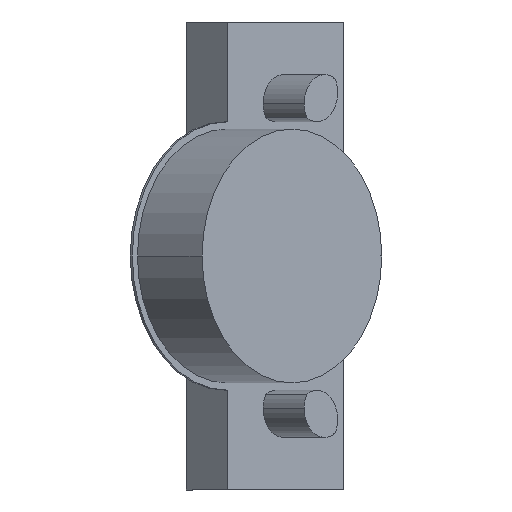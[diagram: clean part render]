
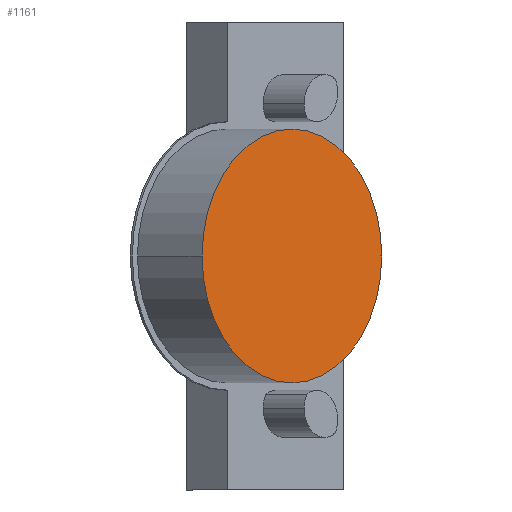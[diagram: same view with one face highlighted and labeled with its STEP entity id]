
A CAD part, front view. The second image highlights one B-rep face of the part: STEP entity #1161.
In plain terms, the highlighted planar face has unit normal (0.707, -0.707, 0).
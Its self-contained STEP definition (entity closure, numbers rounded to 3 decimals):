
#69 = ORIENTED_EDGE ( 'NONE', *, *, #254, .T. ) ;
#82 = FACE_OUTER_BOUND ( 'NONE', #1238, .T. ) ;
#97 = EDGE_CURVE ( 'NONE', #1040, #630, #346, .T. ) ;
#120 = CARTESIAN_POINT ( 'NONE',  ( 18.46, -62.15, 0. ) ) ;
#155 = CARTESIAN_POINT ( 'NONE',  ( 18.46, -62.15, 0. ) ) ;
#176 = DIRECTION ( 'NONE',  ( 0.707, -0.707, 0. ) ) ;
#254 = EDGE_CURVE ( 'NONE', #630, #1040, #1059, .T. ) ;
#346 = CIRCLE ( 'NONE', #816, 17.5 ) ;
#558 = CARTESIAN_POINT ( 'NONE',  ( 6.085, -74.524, 0. ) ) ;
#585 = PLANE ( 'NONE',  #695 ) ;
#630 = VERTEX_POINT ( 'NONE', #558 ) ;
#695 = AXIS2_PLACEMENT_3D ( 'NONE', #971, #1487, #722 ) ;
#722 = DIRECTION ( 'NONE',  ( 0.707, 0.707, 0. ) ) ;
#816 = AXIS2_PLACEMENT_3D ( 'NONE', #120, #1108, #1609 ) ;
#938 = DIRECTION ( 'NONE',  ( 0.707, 0.707, 0. ) ) ;
#971 = CARTESIAN_POINT ( 'NONE',  ( 18.46, -62.15, 0. ) ) ;
#1040 = VERTEX_POINT ( 'NONE', #1417 ) ;
#1059 = CIRCLE ( 'NONE', #1620, 17.5 ) ;
#1108 = DIRECTION ( 'NONE',  ( 0.707, -0.707, 0. ) ) ;
#1161 = ADVANCED_FACE ( 'NONE', ( #82 ), #585, .T. ) ;
#1238 = EDGE_LOOP ( 'NONE', ( #69, #1586 ) ) ;
#1417 = CARTESIAN_POINT ( 'NONE',  ( 30.834, -49.775, 0. ) ) ;
#1487 = DIRECTION ( 'NONE',  ( 0.707, -0.707, 0. ) ) ;
#1586 = ORIENTED_EDGE ( 'NONE', *, *, #97, .T. ) ;
#1609 = DIRECTION ( 'NONE',  ( 0.707, 0.707, 0. ) ) ;
#1620 = AXIS2_PLACEMENT_3D ( 'NONE', #155, #176, #938 ) ;
